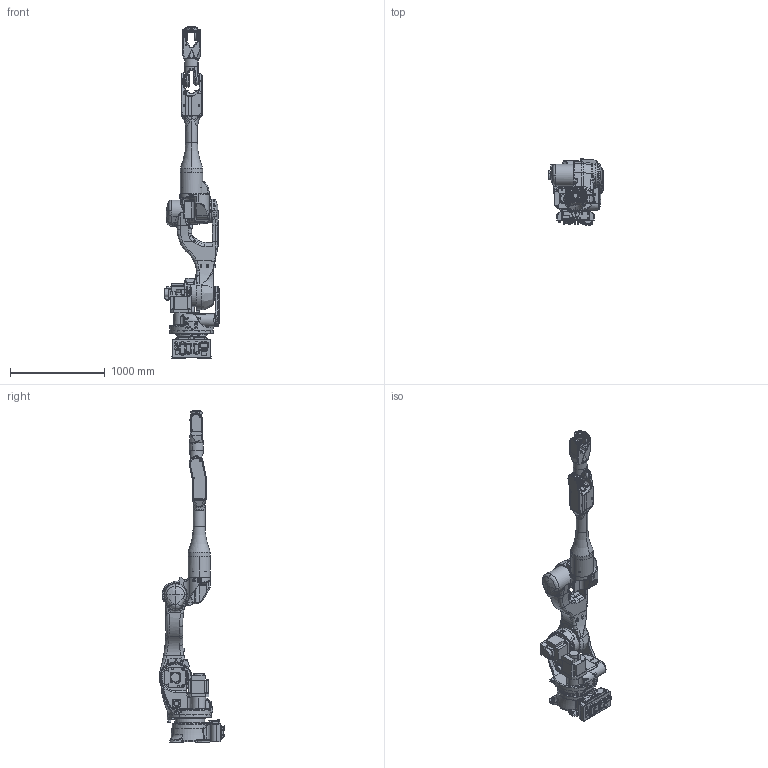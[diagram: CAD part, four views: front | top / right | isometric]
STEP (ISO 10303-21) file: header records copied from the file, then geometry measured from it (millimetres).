
FILE_DESCRIPTION(('CATIA V5 STEP'),'2;1');
FILE_NAME('D:\モデリング\☆☆☆STEP\BU015\BU015X\BU015X-C001_RARAS_190523\軽量化\MODEL\step\BU015X-C001.stp','2019-06-06T08:52:31+00:00',('KHI'),('KHI'),'CATIA Version 5-6 Release 2016 SP4 HF10','CATIA V5 STEP AP203','none');
FILE_SCHEMA(('CONFIG_CONTROL_DESIGN'));
Products named in the file (1): BU015X-C001
Assembly tree (8 placements, depth 2):
  BU015X-C001
    #57
    #43548
    #78600
    #100641
    #123883
    #144508
    #166628
    #180505
Bounding box: 579 x 695.33 x 3500 mm (x, y, z)
Volume: 225472707.3 mm3; surface area: 6398815.7 mm2
Topology: 9 solids, 9 shells, 4737 faces, 11920 edges, 7450 vertices
Faces by surface type: cylinder 1756, plane 1740, bspline 600, cone 286, torus 207, extrusion 77, sphere 62, revolution 9
Entity records: 184660 total; most frequent: CARTESIAN_POINT 84261, ORIENTED_EDGE 23326, DIRECTION 15095, EDGE_CURVE 11663, VERTEX_POINT 7450, AXIS2_PLACEMENT_3D 6788, VECTOR 5291, EDGE_LOOP 5279
